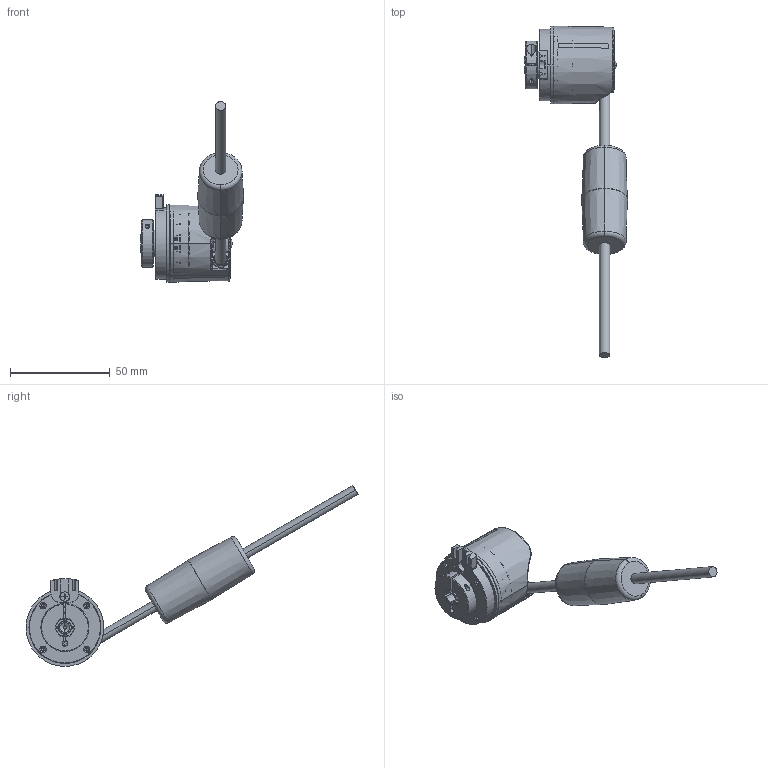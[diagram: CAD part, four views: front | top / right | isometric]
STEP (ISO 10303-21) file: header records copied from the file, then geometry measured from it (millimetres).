
FILE_DESCRIPTION (( 'STEP AP203' ), '1' );
FILE_NAME ('8.F3688.16X1.2112.STEP', '2012-08-20T13:26:42', ( 'Hodot' ), ( '' ), 'SwSTEP 2.0', 'SolidWorks 2012', '' );
FILE_SCHEMA (( 'CONFIG_CONTROL_DESIGN' ));
Length unit declared in the file: millimetre
Products named in the file (1): 8.F3688.16X1.2112
Bounding box: 51.7 x 166.37 x 90.61 mm (x, y, z)
Volume: 29005.3 mm3; surface area: 34680.5 mm2
Topology: 28 solids, 29 shells, 1354 faces, 3326 edges, 2050 vertices
Faces by surface type: plane 374, cylinder 309, bspline 285, cone 190, torus 158, sphere 38
Entity records: 47279 total; most frequent: CARTESIAN_POINT 17384, ORIENTED_EDGE 6494, DIRECTION 5854, EDGE_CURVE 3247, AXIS2_PLACEMENT_3D 2313, VERTEX_POINT 2014, EDGE_LOOP 1447, ADVANCED_FACE 1354
